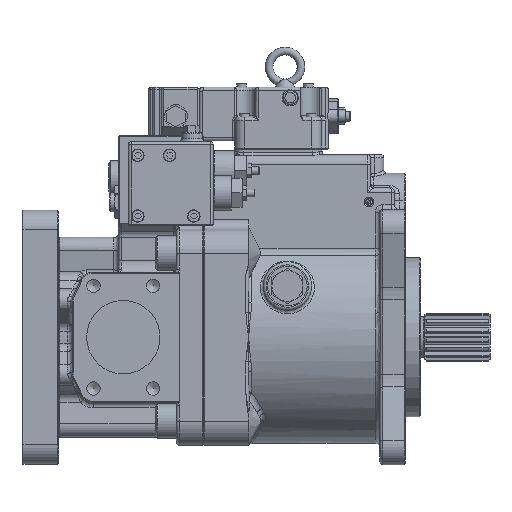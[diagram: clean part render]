
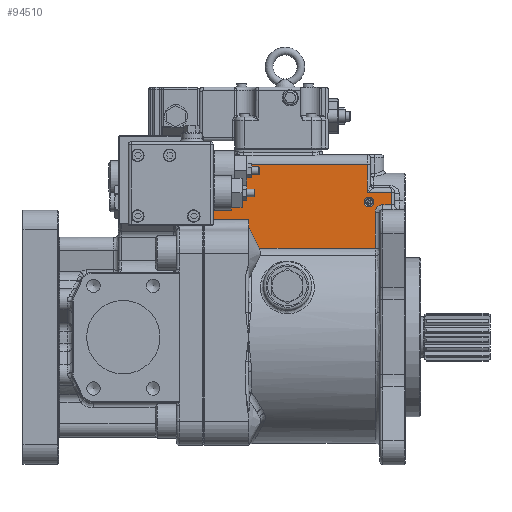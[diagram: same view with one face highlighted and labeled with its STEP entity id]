
A CAD part, left-side view. The second image highlights one B-rep face of the part: STEP entity #94510.
In plain terms, the highlighted planar face has unit normal (-1, 0, 0).
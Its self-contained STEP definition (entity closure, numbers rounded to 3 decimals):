
#77226=CARTESIAN_POINT('',(-67.,40.5,145.));
#77227=VERTEX_POINT('',#77226);
#77228=CARTESIAN_POINT('',(-67.,40.5,140.));
#77229=DIRECTION('',(1.0,0.0,0.0));
#77230=DIRECTION('',(0.0,0.0,1.0));
#77231=AXIS2_PLACEMENT_3D('',#77228,#77229,#77230);
#77232=CIRCLE('',#77231,5.);
#77233=EDGE_CURVE('',#77227,#77227,#77232,.T.);
#79885=CARTESIAN_POINT('',(-67.,211.0,179.));
#79886=VERTEX_POINT('',#79885);
#79894=CARTESIAN_POINT('',(-67.,42.,179.));
#79895=VERTEX_POINT('',#79894);
#79896=CARTESIAN_POINT('',(-67.,211.0,179.));
#79897=DIRECTION('',(0.0,-1.0,0.0));
#79898=VECTOR('',#79897,169.);
#79899=LINE('',#79896,#79898);
#79900=EDGE_CURVE('',#79886,#79895,#79899,.T.);
#83514=CARTESIAN_POINT('',(-67.,154.426,92.038));
#83515=VERTEX_POINT('',#83514);
#83523=CARTESIAN_POINT('',(-67.,165.0,114.));
#83524=VERTEX_POINT('',#83523);
#83525=CARTESIAN_POINT('',(-67.,165.0,114.));
#83526=DIRECTION('',(0.0,-0.434,-0.901));
#83527=VECTOR('',#83526,24.375);
#83528=LINE('',#83525,#83527);
#83529=EDGE_CURVE('',#83524,#83515,#83528,.T.);
#89919=CARTESIAN_POINT('',(-67.,42.,150.));
#89920=VERTEX_POINT('',#89919);
#92830=CARTESIAN_POINT('',(-67.,42.,179.));
#92831=DIRECTION('',(0.0,0.0,-1.0));
#92832=VECTOR('',#92831,29.0);
#92833=LINE('',#92830,#92832);
#92834=EDGE_CURVE('',#79895,#89920,#92833,.T.);
#93450=CARTESIAN_POINT('',(-67.,17.,137.25));
#93451=VERTEX_POINT('',#93450);
#93484=CARTESIAN_POINT('',(-67.,26.,137.25));
#93485=VERTEX_POINT('',#93484);
#93502=CARTESIAN_POINT('',(-67.,17.,137.25));
#93503=DIRECTION('',(0.0,1.0,0.0));
#93504=VECTOR('',#93503,9.);
#93505=LINE('',#93502,#93504);
#93506=EDGE_CURVE('',#93451,#93485,#93505,.T.);
#93564=CARTESIAN_POINT('',(-67.,34.,129.25));
#93565=VERTEX_POINT('',#93564);
#93583=CARTESIAN_POINT('',(-67.,26.,129.25));
#93584=DIRECTION('',(-1.0,0.,0.));
#93585=DIRECTION('',(0.,0.707,0.707));
#93586=AXIS2_PLACEMENT_3D('',#93583,#93584,#93585);
#93587=CIRCLE('',#93586,8.0);
#93588=EDGE_CURVE('',#93485,#93565,#93587,.T.);
#93598=CARTESIAN_POINT('',(-67.,34.,92.038));
#93599=VERTEX_POINT('',#93598);
#93616=CARTESIAN_POINT('',(-67.,34.,129.25));
#93617=DIRECTION('',(0.0,0.0,-1.0));
#93618=VECTOR('',#93617,37.212);
#93619=LINE('',#93616,#93618);
#93620=EDGE_CURVE('',#93565,#93599,#93619,.T.);
#94354=CARTESIAN_POINT('',(-67.,17.,150.));
#94355=VERTEX_POINT('',#94354);
#94412=CARTESIAN_POINT('',(-67.,17.,150.));
#94413=DIRECTION('',(0.0,1.0,0.0));
#94414=VECTOR('',#94413,25.);
#94415=LINE('',#94412,#94414);
#94416=EDGE_CURVE('',#94355,#89920,#94415,.T.);
#94455=CARTESIAN_POINT('',(-67.,17.,150.));
#94456=DIRECTION('',(0.0,0.0,-1.0));
#94457=VECTOR('',#94456,12.75);
#94458=LINE('',#94455,#94457);
#94459=EDGE_CURVE('',#94355,#93451,#94458,.T.);
#94464=CARTESIAN_POINT('',(-67.,215.0,122.));
#94465=DIRECTION('',(-1.0,0.0,0.0));
#94466=DIRECTION('',(0.0,0.0,1.0));
#94467=AXIS2_PLACEMENT_3D('',#94464,#94465,#94466);
#94468=PLANE('',#94467);
#94469=ORIENTED_EDGE('',*,*,#92834,.F.);
#94470=ORIENTED_EDGE('',*,*,#79900,.F.);
#94471=CARTESIAN_POINT('',(-67.,211.0,122.));
#94472=VERTEX_POINT('',#94471);
#94473=CARTESIAN_POINT('',(-67.,211.0,122.));
#94474=DIRECTION('',(0.0,0.0,1.0));
#94475=VECTOR('',#94474,57.);
#94476=LINE('',#94473,#94475);
#94477=EDGE_CURVE('',#94472,#79886,#94476,.T.);
#94478=ORIENTED_EDGE('',*,*,#94477,.F.);
#94479=CARTESIAN_POINT('',(-67.,165.0,122.));
#94480=VERTEX_POINT('',#94479);
#94481=CARTESIAN_POINT('',(-67.,211.0,122.));
#94482=DIRECTION('',(0.0,-1.0,0.0));
#94483=VECTOR('',#94482,46.0);
#94484=LINE('',#94481,#94483);
#94485=EDGE_CURVE('',#94472,#94480,#94484,.T.);
#94486=ORIENTED_EDGE('',*,*,#94485,.T.);
#94487=CARTESIAN_POINT('',(-67.,165.0,114.));
#94488=DIRECTION('',(0.0,0.0,1.0));
#94489=VECTOR('',#94488,8.);
#94490=LINE('',#94487,#94489);
#94491=EDGE_CURVE('',#83524,#94480,#94490,.T.);
#94492=ORIENTED_EDGE('',*,*,#94491,.F.);
#94493=ORIENTED_EDGE('',*,*,#83529,.T.);
#94494=CARTESIAN_POINT('',(-67.,154.426,92.038));
#94495=DIRECTION('',(0.0,-1.0,0.0));
#94496=VECTOR('',#94495,120.426);
#94497=LINE('',#94494,#94496);
#94498=EDGE_CURVE('',#83515,#93599,#94497,.T.);
#94499=ORIENTED_EDGE('',*,*,#94498,.T.);
#94500=ORIENTED_EDGE('',*,*,#93620,.F.);
#94501=ORIENTED_EDGE('',*,*,#93588,.F.);
#94502=ORIENTED_EDGE('',*,*,#93506,.F.);
#94503=ORIENTED_EDGE('',*,*,#94459,.F.);
#94504=ORIENTED_EDGE('',*,*,#94416,.T.);
#94505=EDGE_LOOP('',(#94469,#94470,#94478,#94486,#94492,#94493,#94499,#94500,#94501,#94502,#94503,#94504));
#94506=FACE_OUTER_BOUND('',#94505,.T.);
#94507=ORIENTED_EDGE('',*,*,#77233,.T.);
#94508=EDGE_LOOP('',(#94507));
#94509=FACE_BOUND('',#94508,.T.);
#94510=ADVANCED_FACE('',(#94506,#94509),#94468,.T.);
